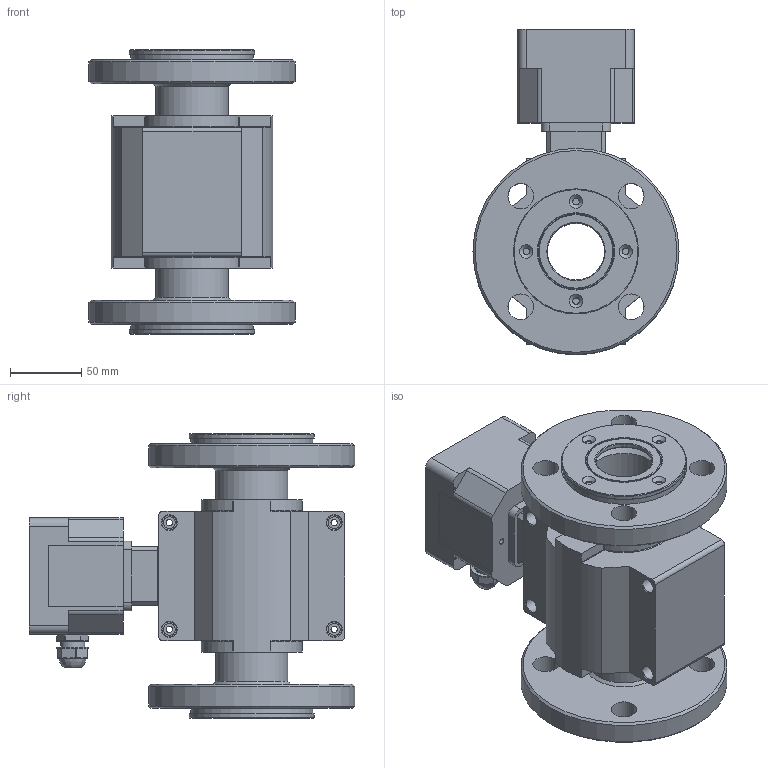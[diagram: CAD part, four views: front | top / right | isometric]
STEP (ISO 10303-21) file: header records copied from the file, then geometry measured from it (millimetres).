
FILE_DESCRIPTION(/* description */ (''),/* implementation_level */ '2;1');
FILE_NAME(/* name */ 'C:\ТЭК\Реклама\ПРЭМ-40F.stp',/* time_stamp */ '2019-12-16T14:56:24+03:00',/* author */ ('Kishalov.m'),/* organization */ (''),/* preprocessor_version */ 'ST-DEVELOPER v18',/* originating_system */ 'Autodesk Inventor 2020',/* authorisation */ '');
FILE_SCHEMA (('AUTOMOTIVE_DESIGN { 1 0 10303 214 3 1 1 }'));
Products named in the file (1): ПРЭМ-40F
Bounding box: 145 x 229 x 200 mm (x, y, z)
Volume: 996698.8 mm3; surface area: 354498.5 mm2
Topology: 3 solids, 3 shells, 2571 faces, 6739 edges, 4295 vertices
Faces by surface type: plane 1451, cylinder 501, bspline 461, sphere 92, cone 50, torus 16
Full cylindrical faces by diameter (mm): 0.431 x1, 0.546 x1, 1.159 x2, 1.5 x2, 1.7 x2, 1.8 x8, 2 x4, 2.5 x4, 3 x4, 3.242 x4, 4.2 x1, 4.5 x20, 4.7 x4, 4.9 x4, 5.472 x1, 5.5 x3, 7.5 x4, 8.5 x12, 10.3 x8, 11 x8, 12 x2, 13 x2, 17 x6, 18 x8, 19.094 x2, 20.5 x1, 40 x2, 47 x1, 51 x1, 53.001 x2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
Entity records: 89997 total; most frequent: CARTESIAN_POINT 26502, ORIENTED_EDGE 13290, DIRECTION 11230, EDGE_CURVE 6645, LINE 4430, VECTOR 4430, VERTEX_POINT 4295, AXIS2_PLACEMENT_3D 3400
